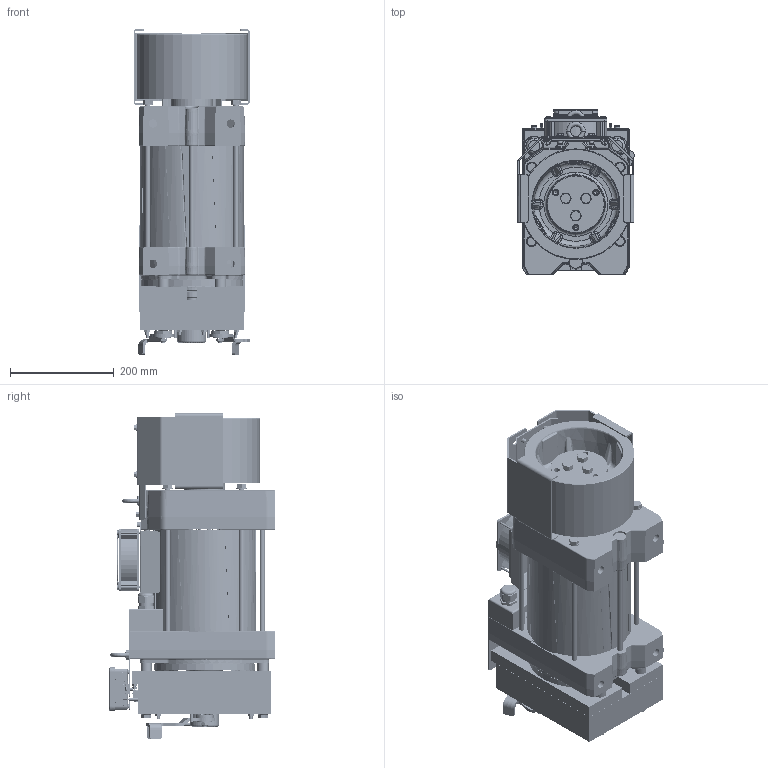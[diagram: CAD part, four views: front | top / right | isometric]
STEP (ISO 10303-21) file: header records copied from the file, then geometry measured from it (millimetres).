
FILE_DESCRIPTION((''),'2;1');
FILE_NAME('00363793_ASM','2020-06-05T',('furlanis'),('Sicor spa'),'CREO PARAMETRIC BY PTC INC, 2017170','CREO PARAMETRIC BY PTC INC, 2017170','');
FILE_SCHEMA(('CONFIG_CONTROL_DESIGN'));
Products named in the file (13): SW07; _210_125; 00341692_1_1; M6_FTT_M_1_1; 00341698_ASM_1_1_ASM; 00341694_1_1; 00336564_1_1; 00341699_ASM_1_1_ASM; 210_ASM; 00073486; GROWER_M12_GRO0002; TEM12X45_VIT0222; 00363793_ASM
Assembly tree (25 placements, depth 5):
  00363793_ASM
    SW07
    _210_125
    210_ASM
      00341699_ASM_1_1_ASM
        00341698_ASM_1_1_ASM
          00341692_1_1
          M6_FTT_M_1_1  x4
        00341694_1_1  x2
        00336564_1_1  x6
    00073486
    GROWER_M12_GRO0002  x3
    TEM12X45_VIT0222  x3
Bounding box: 224.66 x 318.5 x 627.68 mm (x, y, z)
Volume: 3005460.9 mm3; surface area: 1997188.5 mm2
Topology: 21 solids, 326 shells, 5363 faces, 15964 edges, 10660 vertices
Faces by surface type: cylinder 1690, plane 1484, bspline 1123, torus 567, cone 447, sphere 50, revolution 2
Entity records: 285255 total; most frequent: CARTESIAN_POINT 161620, ORIENTED_EDGE 25130, DIRECTION 23204, EDGE_CURVE 15247, VERTEX_POINT 10228, AXIS2_PLACEMENT_3D 8702, VECTOR 5798, LINE 5798
